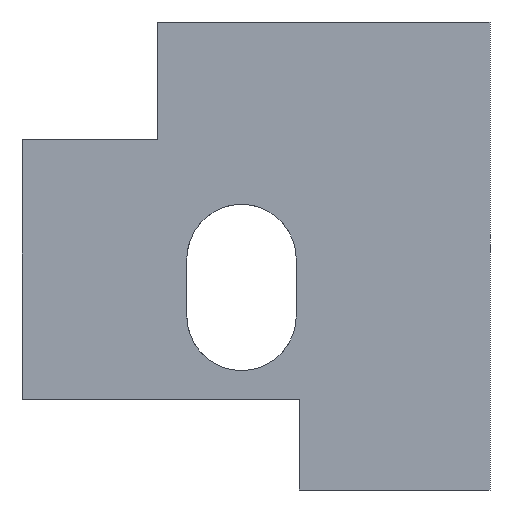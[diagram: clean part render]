
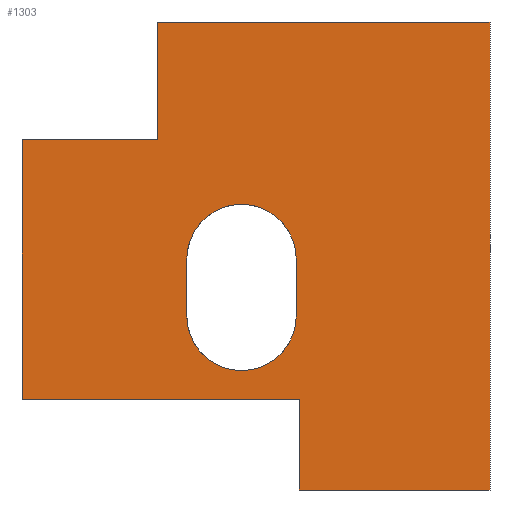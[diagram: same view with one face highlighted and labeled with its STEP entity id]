
A CAD part, front view. The second image highlights one B-rep face of the part: STEP entity #1303.
In plain terms, the highlighted planar face has unit normal (0, -1, 0).
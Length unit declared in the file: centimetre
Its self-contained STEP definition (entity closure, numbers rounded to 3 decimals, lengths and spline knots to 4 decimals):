
#7 = FACE_OUTER_BOUND ( 'NONE', #721, .T. ) ;
#14 = VERTEX_POINT ( 'NONE', #968 ) ;
#31 = FACE_BOUND ( 'NONE', #1293, .T. ) ;
#37 = VERTEX_POINT ( 'NONE', #1381 ) ;
#61 = VERTEX_POINT ( 'NONE', #189 ) ;
#93 = CARTESIAN_POINT ( 'NONE',  ( 352.1299, 0., 372.0283 ) ) ;
#110 = AXIS2_PLACEMENT_3D ( 'NONE', #936, #956, #1432 ) ;
#123 = DIRECTION ( 'NONE',  ( 0., 0., 1. ) ) ;
#126 = ORIENTED_EDGE ( 'NONE', *, *, #1346, .F. ) ;
#132 = VECTOR ( 'NONE', #1088, 100. ) ;
#136 = DIRECTION ( 'NONE',  ( 1., 0., 0. ) ) ;
#144 = VERTEX_POINT ( 'NONE', #662 ) ;
#183 = CIRCLE ( 'NONE', #810, 116.9149 ) ;
#184 = ORIENTED_EDGE ( 'NONE', *, *, #538, .F. ) ;
#189 = CARTESIAN_POINT ( 'NONE',  ( 585.9597, 0., 493.4602 ) ) ;
#192 = VERTEX_POINT ( 'NONE', #1123 ) ;
#221 = CARTESIAN_POINT ( 'NONE',  ( 592.6572, 0., 193.6864 ) ) ;
#236 = VECTOR ( 'NONE', #1349, 100. ) ;
#246 = CARTESIAN_POINT ( 'NONE',  ( 469.0448, 0., 493.4602 ) ) ;
#255 = CARTESIAN_POINT ( 'NONE',  ( 592.6572, 0., 193.6864 ) ) ;
#259 = VECTOR ( 'NONE', #1178, 100. ) ;
#274 = CARTESIAN_POINT ( 'NONE',  ( 1000., 0., 1000. ) ) ;
#288 = AXIS2_PLACEMENT_3D ( 'NONE', #1107, #969, #506 ) ;
#299 = ORIENTED_EDGE ( 'NONE', *, *, #837, .F. ) ;
#323 = ORIENTED_EDGE ( 'NONE', *, *, #727, .F. ) ;
#327 = EDGE_CURVE ( 'NONE', #1423, #37, #1306, .T. ) ;
#352 = DIRECTION ( 'NONE',  ( 0., 0., -1. ) ) ;
#382 = CARTESIAN_POINT ( 'NONE',  ( 0., 0., 748.4551 ) ) ;
#443 = DIRECTION ( 'NONE',  ( 0., 0., -1. ) ) ;
#444 = CARTESIAN_POINT ( 'NONE',  ( 1000., 0., 1000. ) ) ;
#463 = DIRECTION ( 'NONE',  ( 0., -1., 0. ) ) ;
#468 = CARTESIAN_POINT ( 'NONE',  ( 592.6572, 0., 0. ) ) ;
#474 = DIRECTION ( 'NONE',  ( 0., 0., 1. ) ) ;
#490 = EDGE_CURVE ( 'NONE', #656, #1414, #705, .T. ) ;
#498 = DIRECTION ( 'NONE',  ( 1., 0., 0. ) ) ;
#506 = DIRECTION ( 'NONE',  ( 0., 0., 1. ) ) ;
#513 = VERTEX_POINT ( 'NONE', #692 ) ;
#536 = ORIENTED_EDGE ( 'NONE', *, *, #1527, .F. ) ;
#538 = EDGE_CURVE ( 'NONE', #14, #192, #714, .T. ) ;
#562 = CARTESIAN_POINT ( 'NONE',  ( 592.6572, 0., 193.6864 ) ) ;
#616 = CARTESIAN_POINT ( 'NONE',  ( 0., 0., 1000. ) ) ;
#618 = VECTOR ( 'NONE', #474, 100. ) ;
#622 = VECTOR ( 'NONE', #498, 100. ) ;
#656 = VERTEX_POINT ( 'NONE', #468 ) ;
#660 = CIRCLE ( 'NONE', #784, 116.9149 ) ;
#662 = CARTESIAN_POINT ( 'NONE',  ( 469.0448, 0., 255.1134 ) ) ;
#692 = CARTESIAN_POINT ( 'NONE',  ( 289.65, 0., 748.4551 ) ) ;
#697 = EDGE_CURVE ( 'NONE', #1126, #1426, #1323, .T. ) ;
#705 = LINE ( 'NONE', #562, #618 ) ;
#714 = LINE ( 'NONE', #93, #1482 ) ;
#721 = EDGE_LOOP ( 'NONE', ( #1468, #992, #1034, #1393, #831, #126, #1453, #1180 ) ) ;
#727 = EDGE_CURVE ( 'NONE', #1309, #61, #869, .T. ) ;
#731 = CARTESIAN_POINT ( 'NONE',  ( 585.9597, 0., 493.4602 ) ) ;
#757 = VERTEX_POINT ( 'NONE', #1124 ) ;
#767 = LINE ( 'NONE', #616, #622 ) ;
#776 = ORIENTED_EDGE ( 'NONE', *, *, #901, .F. ) ;
#784 = AXIS2_PLACEMENT_3D ( 'NONE', #1195, #1170, #123 ) ;
#807 = CARTESIAN_POINT ( 'NONE',  ( 289.65, 0., 748.4551 ) ) ;
#808 = EDGE_CURVE ( 'NONE', #513, #757, #1551, .T. ) ;
#810 = AXIS2_PLACEMENT_3D ( 'NONE', #246, #463, #1187 ) ;
#831 = ORIENTED_EDGE ( 'NONE', *, *, #697, .F. ) ;
#837 = EDGE_CURVE ( 'NONE', #61, #14, #183, .T. ) ;
#869 = LINE ( 'NONE', #731, #132 ) ;
#874 = CARTESIAN_POINT ( 'NONE',  ( 0., 0., 0. ) ) ;
#881 = LINE ( 'NONE', #382, #1358 ) ;
#885 = VECTOR ( 'NONE', #1205, 100. ) ;
#901 = EDGE_CURVE ( 'NONE', #144, #1309, #660, .T. ) ;
#934 = CARTESIAN_POINT ( 'NONE',  ( 0., 0., 1000. ) ) ;
#936 = CARTESIAN_POINT ( 'NONE',  ( 469.0448, 0., 372.0283 ) ) ;
#956 = DIRECTION ( 'NONE',  ( 0., -1., 0. ) ) ;
#968 = CARTESIAN_POINT ( 'NONE',  ( 352.1299, 0., 493.4602 ) ) ;
#969 = DIRECTION ( 'NONE',  ( 0., 1., 0. ) ) ;
#991 = CARTESIAN_POINT ( 'NONE',  ( 585.9597, 0., 372.0283 ) ) ;
#992 = ORIENTED_EDGE ( 'NONE', *, *, #1350, .F. ) ;
#1034 = ORIENTED_EDGE ( 'NONE', *, *, #490, .F. ) ;
#1088 = DIRECTION ( 'NONE',  ( 0., 0., 1. ) ) ;
#1107 = CARTESIAN_POINT ( 'NONE',  ( 0., 0., 1000. ) ) ;
#1112 = CIRCLE ( 'NONE', #110, 116.9149 ) ;
#1123 = CARTESIAN_POINT ( 'NONE',  ( 352.1299, 0., 372.0283 ) ) ;
#1124 = CARTESIAN_POINT ( 'NONE',  ( 289.65, 0., 1000. ) ) ;
#1126 = VERTEX_POINT ( 'NONE', #444 ) ;
#1170 = DIRECTION ( 'NONE',  ( 0., -1., 0. ) ) ;
#1178 = DIRECTION ( 'NONE',  ( 0., 0., 1. ) ) ;
#1180 = ORIENTED_EDGE ( 'NONE', *, *, #1317, .F. ) ;
#1187 = DIRECTION ( 'NONE',  ( 0., 0., 1. ) ) ;
#1195 = CARTESIAN_POINT ( 'NONE',  ( 469.0448, 0., 372.0283 ) ) ;
#1204 = VECTOR ( 'NONE', #1436, 100. ) ;
#1205 = DIRECTION ( 'NONE',  ( -1., 0., 0. ) ) ;
#1293 = EDGE_LOOP ( 'NONE', ( #323, #776, #536, #184, #299 ) ) ;
#1303 = ADVANCED_FACE ( 'NONE', ( #31, #7 ), #1343, .F. ) ;
#1306 = LINE ( 'NONE', #934, #1452 ) ;
#1309 = VERTEX_POINT ( 'NONE', #991 ) ;
#1315 = EDGE_CURVE ( 'NONE', #656, #1426, #1466, .T. ) ;
#1317 = EDGE_CURVE ( 'NONE', #1423, #513, #881, .T. ) ;
#1323 = LINE ( 'NONE', #274, #1204 ) ;
#1328 = LINE ( 'NONE', #255, #885 ) ;
#1343 = PLANE ( 'NONE',  #288 ) ;
#1346 = EDGE_CURVE ( 'NONE', #757, #1126, #767, .T. ) ;
#1349 = DIRECTION ( 'NONE',  ( 1., 0., 0. ) ) ;
#1350 = EDGE_CURVE ( 'NONE', #1414, #37, #1328, .T. ) ;
#1358 = VECTOR ( 'NONE', #136, 100. ) ;
#1381 = CARTESIAN_POINT ( 'NONE',  ( 0., 0., 193.6864 ) ) ;
#1393 = ORIENTED_EDGE ( 'NONE', *, *, #1315, .T. ) ;
#1412 = CARTESIAN_POINT ( 'NONE',  ( 0., 0., 748.4551 ) ) ;
#1414 = VERTEX_POINT ( 'NONE', #221 ) ;
#1423 = VERTEX_POINT ( 'NONE', #1412 ) ;
#1426 = VERTEX_POINT ( 'NONE', #1544 ) ;
#1432 = DIRECTION ( 'NONE',  ( 0., 0., 1. ) ) ;
#1436 = DIRECTION ( 'NONE',  ( 0., 0., -1. ) ) ;
#1452 = VECTOR ( 'NONE', #352, 100. ) ;
#1453 = ORIENTED_EDGE ( 'NONE', *, *, #808, .F. ) ;
#1466 = LINE ( 'NONE', #874, #236 ) ;
#1468 = ORIENTED_EDGE ( 'NONE', *, *, #327, .T. ) ;
#1482 = VECTOR ( 'NONE', #443, 100. ) ;
#1527 = EDGE_CURVE ( 'NONE', #192, #144, #1112, .T. ) ;
#1544 = CARTESIAN_POINT ( 'NONE',  ( 1000., 0., 0. ) ) ;
#1551 = LINE ( 'NONE', #807, #259 ) ;
